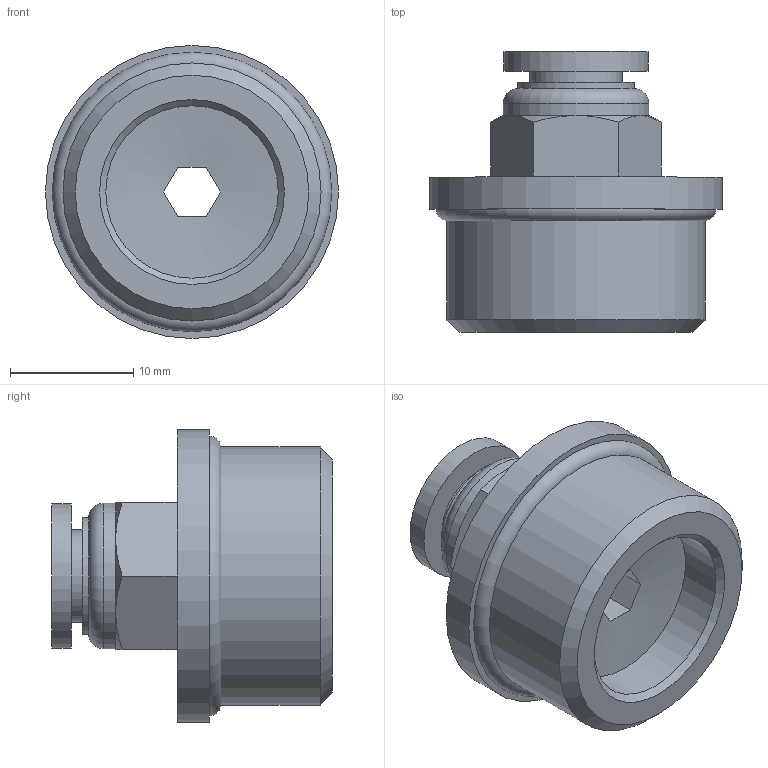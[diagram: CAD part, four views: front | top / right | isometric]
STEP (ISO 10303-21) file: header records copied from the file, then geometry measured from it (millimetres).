
FILE_DESCRIPTION(/* description */ (''),/* implementation_level */ '2;1');
FILE_NAME(/* name */ 'S:\_Tecnico\ArchivioUT\_Disegni3D ingombri\DISEGNI 3D per ingombri\RP\RP 51\RP511206.stp',/* time_stamp */ '2019-07-25T08:32:43+02:00',/* author */ ('ufficiotecnico3'),/* organization */ (''),/* preprocessor_version */ 'ST-DEVELOPER v18',/* originating_system */ 'Autodesk Inventor 2020',/* authorisation */ '');
FILE_SCHEMA (('AUTOMOTIVE_DESIGN { 1 0 10303 214 3 1 1 }'));
Length unit declared in the file: millimetre
Products named in the file (1): RP511206
Bounding box: 23.8 x 22.8 x 23.8 mm (x, y, z)
Volume: 4592.4 mm3; surface area: 2621.8 mm2
Topology: 1 solids, 1 shells, 40 faces, 102 edges, 70 vertices
Faces by surface type: plane 20, cone 10, cylinder 8, torus 2
Full cylindrical faces by diameter (mm): 6 x1, 7.5 x1, 9.5 x1, 11.7 x1, 11.8 x1, 14 x1, 20.955 x1, 23.8 x1
Entity records: 1267 total; most frequent: CARTESIAN_POINT 261, ORIENTED_EDGE 204, DIRECTION 202, EDGE_CURVE 102, AXIS2_PLACEMENT_3D 83, VERTEX_POINT 70, EDGE_LOOP 48, CIRCLE 42
